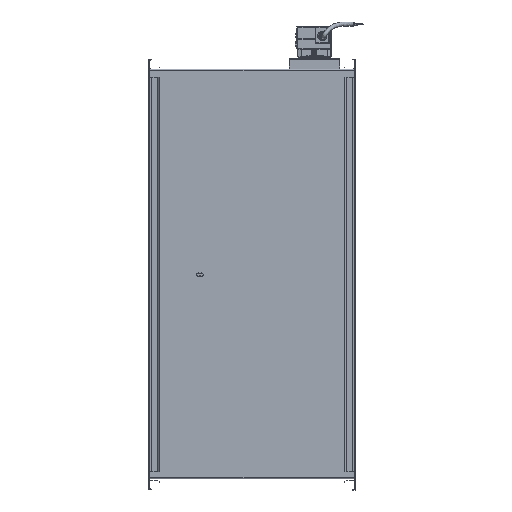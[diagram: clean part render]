
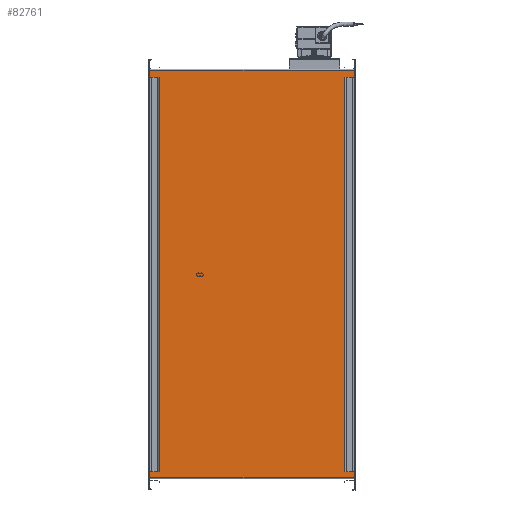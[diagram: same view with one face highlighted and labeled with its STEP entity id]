
A CAD part, front view. The second image highlights one B-rep face of the part: STEP entity #82761.
In plain terms, the highlighted planar face has unit normal (0, -1, 0).
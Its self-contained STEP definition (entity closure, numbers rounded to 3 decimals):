
#339 = LINE ( 'NONE', #28597, #91486 ) ;
#606 = DIRECTION ( 'NONE',  ( 0., 0., -1. ) ) ;
#1552 = EDGE_CURVE ( 'NONE', #32825, #76669, #339, .T. ) ;
#9657 = CARTESIAN_POINT ( 'NONE',  ( -244.423, -85.848, 702. ) ) ;
#11446 = ORIENTED_EDGE ( 'NONE', *, *, #1552, .F. ) ;
#15181 = DIRECTION ( 'NONE',  ( 1., 0., 0. ) ) ;
#15659 = DIRECTION ( 'NONE',  ( 1., 0., 0. ) ) ;
#28597 = CARTESIAN_POINT ( 'NONE',  ( 155.577, -85.848, 702. ) ) ;
#28631 = VERTEX_POINT ( 'NONE', #45633 ) ;
#29080 = LINE ( 'NONE', #78994, #72882 ) ;
#32018 = EDGE_CURVE ( 'NONE', #28631, #38313, #72288, .T. ) ;
#32825 = VERTEX_POINT ( 'NONE', #88687 ) ;
#37150 = CARTESIAN_POINT ( 'NONE',  ( -244.423, -85.848, 702. ) ) ;
#37306 = DIRECTION ( 'NONE',  ( 0., 0., -1. ) ) ;
#38313 = VERTEX_POINT ( 'NONE', #40862 ) ;
#39126 = FACE_OUTER_BOUND ( 'NONE', #50784, .T. ) ;
#40862 = CARTESIAN_POINT ( 'NONE',  ( -244.423, -85.848, 702. ) ) ;
#45633 = CARTESIAN_POINT ( 'NONE',  ( -244.423, -85.848, 1498. ) ) ;
#47019 = ORIENTED_EDGE ( 'NONE', *, *, #51413, .F. ) ;
#49044 = AXIS2_PLACEMENT_3D ( 'NONE', #66868, #80723, #37306 ) ;
#50410 = ORIENTED_EDGE ( 'NONE', *, *, #83400, .T. ) ;
#50784 = EDGE_LOOP ( 'NONE', ( #11446, #47019, #58055, #50410 ) ) ;
#51413 = EDGE_CURVE ( 'NONE', #28631, #32825, #29080, .T. ) ;
#58055 = ORIENTED_EDGE ( 'NONE', *, *, #32018, .T. ) ;
#59950 = PLANE ( 'NONE',  #49044 ) ;
#66868 = CARTESIAN_POINT ( 'NONE',  ( -244.423, -85.848, 702. ) ) ;
#68947 = VECTOR ( 'NONE', #606, 1000. ) ;
#72288 = LINE ( 'NONE', #37150, #68947 ) ;
#72882 = VECTOR ( 'NONE', #15181, 1000. ) ;
#76669 = VERTEX_POINT ( 'NONE', #90007 ) ;
#78046 = DIRECTION ( 'NONE',  ( 0., 0., -1. ) ) ;
#78994 = CARTESIAN_POINT ( 'NONE',  ( -244.423, -85.848, 1498. ) ) ;
#80723 = DIRECTION ( 'NONE',  ( 0., -1., 0. ) ) ;
#82761 = ADVANCED_FACE ( 'NONE', ( #39126 ), #59950, .T. ) ;
#83400 = EDGE_CURVE ( 'NONE', #38313, #76669, #90652, .T. ) ;
#87490 = VECTOR ( 'NONE', #15659, 1000. ) ;
#88687 = CARTESIAN_POINT ( 'NONE',  ( 155.577, -85.848, 1498. ) ) ;
#90007 = CARTESIAN_POINT ( 'NONE',  ( 155.577, -85.848, 702. ) ) ;
#90652 = LINE ( 'NONE', #9657, #87490 ) ;
#91486 = VECTOR ( 'NONE', #78046, 1000. ) ;
